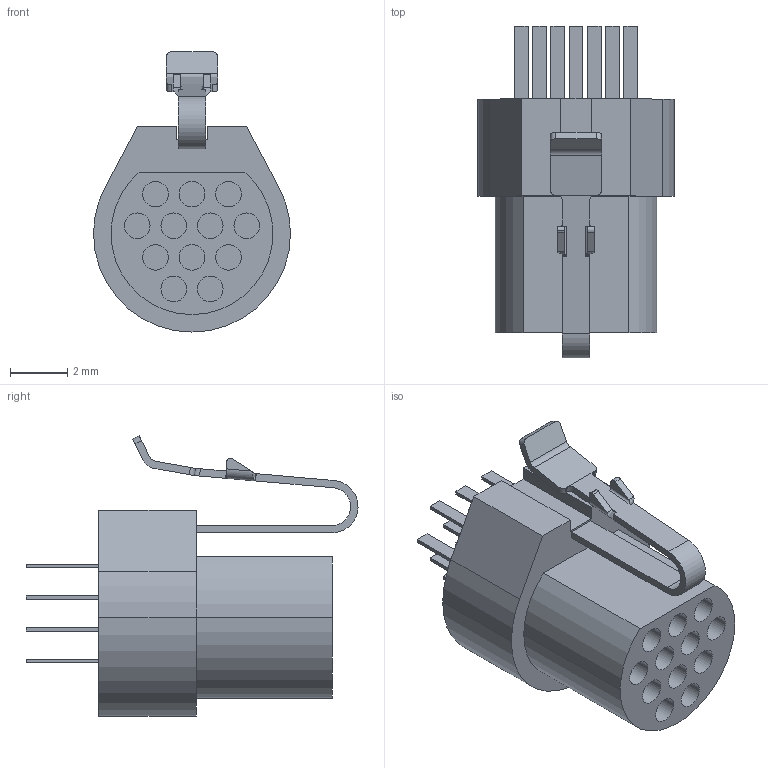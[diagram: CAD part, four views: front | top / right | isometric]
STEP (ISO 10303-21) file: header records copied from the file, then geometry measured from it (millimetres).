
FILE_DESCRIPTION (( 'STEP AP214' ), '1' );
FILE_NAME ('A22046-001 REV D.STEP', '2014-04-21T21:02:11', ( '' ), ( '' ), 'SwSTEP 2.0', 'SolidWorks 2012', '' );
FILE_SCHEMA (( 'AUTOMOTIVE_DESIGN' ));
Length unit declared in the file: inch
Products named in the file (1): A22046-001
Bounding box: 6.86 x 11.56 x 9.75 mm (x, y, z)
Volume: 184.9 mm3; surface area: 589.2 mm2
Topology: 1 solids, 1 shells, 207 faces, 487 edges, 321 vertices
Faces by surface type: plane 130, cylinder 72, bspline 5
Entity records: 6438 total; most frequent: CARTESIAN_POINT 1658, ORIENTED_EDGE 974, DIRECTION 949, EDGE_CURVE 487, AXIS2_PLACEMENT_3D 333, VERTEX_POINT 321, LINE 283, VECTOR 283
